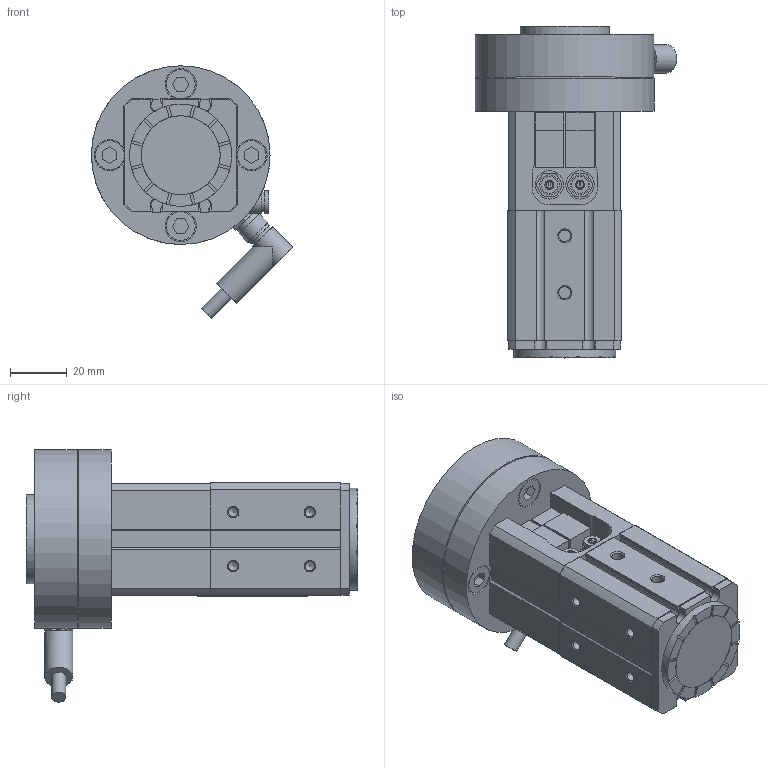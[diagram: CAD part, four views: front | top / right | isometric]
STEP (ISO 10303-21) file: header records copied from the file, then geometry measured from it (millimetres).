
FILE_DESCRIPTION(/* description */ ('STEP AP242','CAx-IF Rec.Pracs.---Representation and Presentation of Product Manufacturing Information (PMI)---4.0---2014-10-13','CAx-IF Rec.Pracs.---3D Tessellated Geometry---0.4---2014-09-14','2;1'),/* implementation_level */ '2;1');
FILE_NAME(/* name */ 'MHM-25D-X7400A-CRX',/* time_stamp */ '2025-12-02T11:54:30+01:00',/* author */ ('License CC BY-ND 4.0'),/* organization */ ('CADENAS'),/* preprocessor_version */ 'ST-DEVELOPER v20',/* originating_system */ 'PARTsolutions',/* authorisation */ ' ');
FILE_SCHEMA (('AP242_MANAGED_MODEL_BASED_3D_ENGINEERING_MIM_LF { 1 0 10303 442 1 1 4 }'));
Length unit declared in the file: millimetre
Products named in the file (7): MHM-25D-X7400A-CRX; MHM-25D-X7400A_DUMMY; MHM-25D-X7400A_BODY; MHM-A2513; MHM-X7400A_BASE1; MHM-X7400A_BASE2; MHM(25)
Assembly tree (7 placements, depth 2):
  MHM-25D-X7400A-CRX
    MHM-25D-X7400A_DUMMY
    MHM-25D-X7400A_BODY
    MHM-A2513
    MHM-X7400A_BASE1
    MHM-X7400A_BASE2
    MHM(25)  x2
Bounding box: 70.96 x 117 x 88.99 mm (x, y, z)
Volume: 212071.1 mm3; surface area: 43758.2 mm2
Topology: 6 solids, 6 shells, 422 faces, 1029 edges, 679 vertices
Faces by surface type: plane 279, cylinder 116, cone 27
Full cylindrical faces by diameter (mm): 2 x2, 2.4 x2, 2.5 x2, 3.2 x2, 3.242 x12, 4 x1, 4.134 x2, 5 x1, 6 x6, 7 x3, 8 x2, 8.3 x1, 9.3 x2, 10 x6, 10.2 x4, 11 x4, 26 x1, 26.1 x1, 26.5 x1, 26.6 x1, 27.8 x2, 31.5 x1, 36 x1, 63 x1
Entity records: 12587 total; most frequent: DIRECTION 1942, CARTESIAN_POINT 1895, ORIENTED_EDGE 1706, EDGE_CURVE 853, AXIS2_PLACEMENT_3D 688, VERTEX_POINT 621, LINE 566, VECTOR 566
